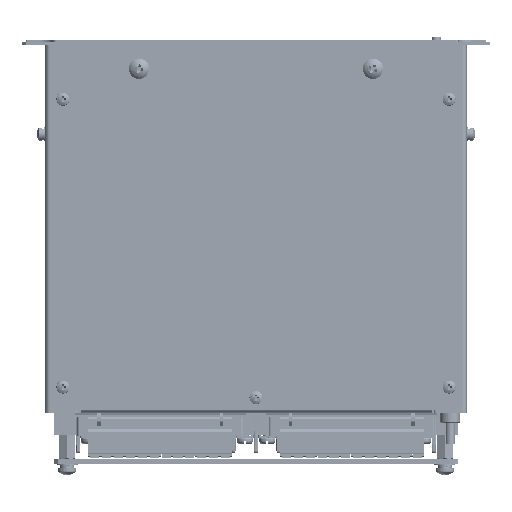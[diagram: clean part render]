
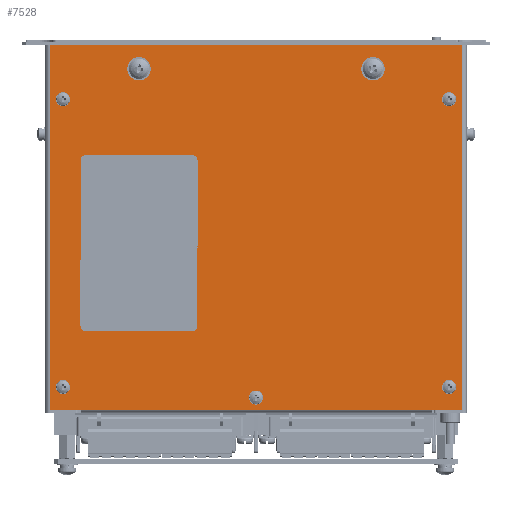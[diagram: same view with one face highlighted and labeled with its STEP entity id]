
A CAD part, left-side view. The second image highlights one B-rep face of the part: STEP entity #7528.
In plain terms, the highlighted planar face has unit normal (-1, 0, 0) as drawn and (0, 0, 1) by its records, which use the part's own axes.
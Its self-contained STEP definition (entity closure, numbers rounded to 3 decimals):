
#7528=ADVANCED_FACE('',(#256630,#256632,#256634,#256636,#256638,#256640,#256642,
#256644),#256646,.T.);
#256630=FACE_BOUND('',#256631,.T.);
#256631=EDGE_LOOP('',(#465346,#465347,#465348,#465349));
#256632=FACE_BOUND('',#256633,.T.);
#256633=EDGE_LOOP('',(#465350));
#256634=FACE_BOUND('',#256635,.T.);
#256635=EDGE_LOOP('',(#465351));
#256636=FACE_BOUND('',#256637,.T.);
#256637=EDGE_LOOP('',(#465352));
#256638=FACE_BOUND('',#256639,.T.);
#256639=EDGE_LOOP('',(#465353));
#256640=FACE_BOUND('',#256641,.T.);
#256641=EDGE_LOOP('',(#465354));
#256642=FACE_BOUND('',#256643,.T.);
#256643=EDGE_LOOP('',(#465355));
#256644=FACE_BOUND('',#256645,.T.);
#256645=EDGE_LOOP('',(#465356));
#256646=PLANE('',#256647);
#256647=AXIS2_PLACEMENT_3D('',#256648,#256649,#256650);
#256648=CARTESIAN_POINT('',(0.,0.,1.));
#256649=DIRECTION('',(0.,0.,1.));
#256650=DIRECTION('',(1.,0.,0.));
#465346=ORIENTED_EDGE('',*,*,#638586,.T.);
#465347=ORIENTED_EDGE('',*,*,#638587,.T.);
#465348=ORIENTED_EDGE('',*,*,#638588,.T.);
#465349=ORIENTED_EDGE('',*,*,#638589,.T.);
#465350=ORIENTED_EDGE('',*,*,#638590,.T.);
#465351=ORIENTED_EDGE('',*,*,#638591,.T.);
#465352=ORIENTED_EDGE('',*,*,#638592,.T.);
#465353=ORIENTED_EDGE('',*,*,#638593,.T.);
#465354=ORIENTED_EDGE('',*,*,#638594,.T.);
#465355=ORIENTED_EDGE('',*,*,#638595,.T.);
#465356=ORIENTED_EDGE('',*,*,#638596,.T.);
#638586=EDGE_CURVE('',#721037,#721038,#721039,.T.);
#638587=EDGE_CURVE('',#721038,#721040,#721041,.T.);
#638588=EDGE_CURVE('',#721040,#721042,#721043,.T.);
#638589=EDGE_CURVE('',#721042,#721037,#721044,.T.);
#638590=EDGE_CURVE('',#721045,#721045,#721046,.F.);
#638591=EDGE_CURVE('',#721047,#721047,#721048,.F.);
#638592=EDGE_CURVE('',#721049,#721049,#721050,.F.);
#638593=EDGE_CURVE('',#721051,#721051,#721052,.F.);
#638594=EDGE_CURVE('',#721053,#721053,#721054,.F.);
#638595=EDGE_CURVE('',#721055,#721055,#721056,.F.);
#638596=EDGE_CURVE('',#721057,#721057,#721058,.F.);
#721037=VERTEX_POINT('',#857429);
#721038=VERTEX_POINT('',#857430);
#721039=LINE('',#857431,#857432);
#721040=VERTEX_POINT('',#857434);
#721041=LINE('',#857435,#857436);
#721042=VERTEX_POINT('',#857438);
#721043=LINE('',#857439,#857440);
#721044=LINE('',#857442,#857443);
#721045=VERTEX_POINT('',#857445);
#721046=CIRCLE('',#857446,1.75);
#721047=VERTEX_POINT('',#857450);
#721048=CIRCLE('',#857451,2.25);
#721049=VERTEX_POINT('',#857455);
#721050=CIRCLE('',#857456,2.25);
#721051=VERTEX_POINT('',#857460);
#721052=CIRCLE('',#857461,1.75);
#721053=VERTEX_POINT('',#857465);
#721054=CIRCLE('',#857466,1.75);
#721055=VERTEX_POINT('',#857470);
#721056=CIRCLE('',#857471,1.75);
#721057=VERTEX_POINT('',#857475);
#721058=CIRCLE('',#857476,1.75);
#857429=CARTESIAN_POINT('',(78.,88.,1.));
#857430=CARTESIAN_POINT('',(-78.,88.,1.));
#857431=CARTESIAN_POINT('',(78.,88.,1.));
#857432=VECTOR('',#857433,1.);
#857433=DIRECTION('',(-1.,0.,0.));
#857434=CARTESIAN_POINT('',(-78.,-88.,1.));
#857435=CARTESIAN_POINT('',(-78.,88.,1.));
#857436=VECTOR('',#857437,1.);
#857437=DIRECTION('',(0.,-1.,0.));
#857438=CARTESIAN_POINT('',(78.,-88.,1.));
#857439=CARTESIAN_POINT('',(-78.,-88.,1.));
#857440=VECTOR('',#857441,1.);
#857441=DIRECTION('',(1.,0.,0.));
#857442=CARTESIAN_POINT('',(78.,-88.,1.));
#857443=VECTOR('',#857444,1.);
#857444=DIRECTION('',(0.,1.,0.));
#857445=CARTESIAN_POINT('',(74.25,0.,1.));
#857446=AXIS2_PLACEMENT_3D('',#857447,#857448,#857449);
#857447=CARTESIAN_POINT('',(72.5,0.,1.));
#857448=DIRECTION('',(0.,0.,1.));
#857449=DIRECTION('',(1.,0.,0.));
#857450=CARTESIAN_POINT('',(-65.75,50.,1.));
#857451=AXIS2_PLACEMENT_3D('',#857452,#857453,#857454);
#857452=CARTESIAN_POINT('',(-68.,50.,1.));
#857453=DIRECTION('',(0.,0.,1.));
#857454=DIRECTION('',(1.,0.,0.));
#857455=CARTESIAN_POINT('',(-65.75,-50.,1.));
#857456=AXIS2_PLACEMENT_3D('',#857457,#857458,#857459);
#857457=CARTESIAN_POINT('',(-68.,-50.,1.));
#857458=DIRECTION('',(0.,0.,1.));
#857459=DIRECTION('',(1.,0.,0.));
#857460=CARTESIAN_POINT('',(-53.25,82.5,1.));
#857461=AXIS2_PLACEMENT_3D('',#857462,#857463,#857464);
#857462=CARTESIAN_POINT('',(-55.,82.5,1.));
#857463=DIRECTION('',(0.,0.,1.));
#857464=DIRECTION('',(1.,0.,0.));
#857465=CARTESIAN_POINT('',(69.75,82.5,1.));
#857466=AXIS2_PLACEMENT_3D('',#857467,#857468,#857469);
#857467=CARTESIAN_POINT('',(68.,82.5,1.));
#857468=DIRECTION('',(0.,0.,1.));
#857469=DIRECTION('',(1.,0.,0.));
#857470=CARTESIAN_POINT('',(-53.25,-82.5,1.));
#857471=AXIS2_PLACEMENT_3D('',#857472,#857473,#857474);
#857472=CARTESIAN_POINT('',(-55.,-82.5,1.));
#857473=DIRECTION('',(0.,0.,1.));
#857474=DIRECTION('',(1.,0.,0.));
#857475=CARTESIAN_POINT('',(69.75,-82.5,1.));
#857476=AXIS2_PLACEMENT_3D('',#857477,#857478,#857479);
#857477=CARTESIAN_POINT('',(68.,-82.5,1.));
#857478=DIRECTION('',(0.,0.,1.));
#857479=DIRECTION('',(1.,0.,0.));
